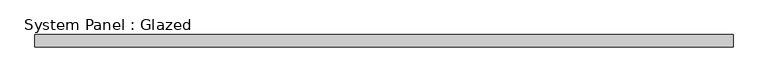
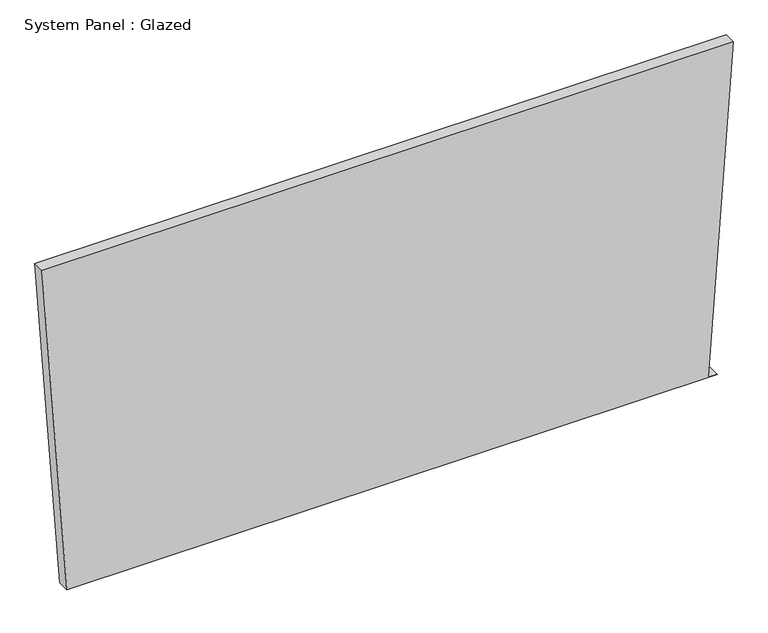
"""IFC4 building model written with IfcOpenShell, lengths in millimetres: plate geometry, System Panel : Glazed."""

from ifc_helpers import new_model, si_unit, frame, origin, place, context, project, spatial, polyline, outline, extrude, source, transform, mapped, element, save


def system_panel_glazed_a80fbb92(model_context):
    return source(origin(), model_context, "Body", "SweptSolid", [
        extrude(outline(polyline([(0.0, -672.215684), (0.0003374, 691.3149012), (1.3670819, 672.3139931), (726.5750442, 724.4785517), (726.5746857, -724.4785517), (0.0, -672.215684)])), frame((0.0, 19.05, 0.0), z_axis=(0.0, 1.0, 0.0), x_axis=(0.0, 0.0, 1.0)), (0.0, 0.0, 1.0), 25.4),
    ])


if __name__ == "__main__":
    model = new_model("IFC4")
    model_context = context("Model", 3, world=origin())
    ifc_project = project(units=[si_unit("LENGTHUNIT", "METRE", prefix="MILLI")], contexts=[model_context])
    site = spatial("IfcSite", under=ifc_project)
    building = spatial("IfcBuilding", under=site)
    placement = place(None, origin())
    system_panel_glazed_shape = system_panel_glazed_a80fbb92(model_context)
    element("IfcPlate", 1, ObjectType="System Panel : Glazed", at=placement, inside=building, context=model_context, shape_type="MappedRepresentation", body=[
        mapped(system_panel_glazed_shape, transform((0.0, 0.0, 0.0), x_axis=(1.0, 0.0, 0.0), y_axis=(0.0, 1.0, 0.0), z_axis=(0.0, 0.0, 1.0))),
    ])
    save(model, "model.ifc")
